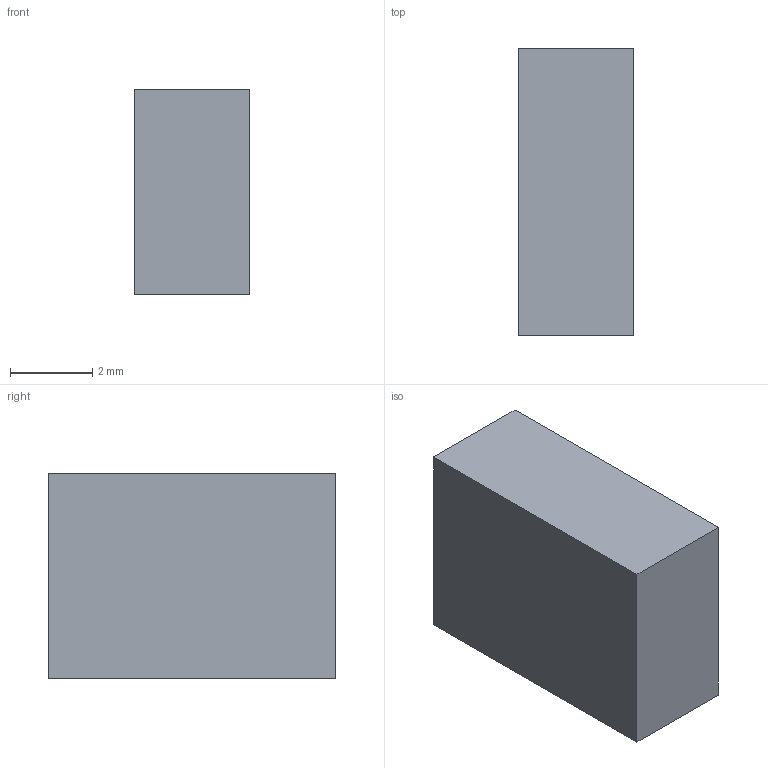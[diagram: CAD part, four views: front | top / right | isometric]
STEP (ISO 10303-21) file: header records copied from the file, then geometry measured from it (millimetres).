
FILE_DESCRIPTION(('Open CASCADE Model'),'2;1');
FILE_NAME('Open CASCADE Shape Model','2026-09-24T05:33:22',('Author'),( 'Open CASCADE'),'Open CASCADE STEP processor 7.8','Open CASCADE 7.8' ,'Unknown');
FILE_SCHEMA(('AUTOMOTIVE_DESIGN { 1 0 10303 214 1 1 1 1 }'));
Length unit declared in the file: millimetre
Products named in the file (1): Open CASCADE STEP translator 7.8 68
Bounding box: 2.8 x 7 x 5 mm (x, y, z)
Volume: 98 mm3; surface area: 137.2 mm2
Topology: 1 solids, 1 shells, 6 faces, 12 edges, 8 vertices
Faces by surface type: plane 6
Entity records: 322 total; most frequent: CARTESIAN_POINT 51, DIRECTION 50, LINE 36, VECTOR 36, ORIENTED_EDGE 24, PCURVE 24, DEFINITIONAL_REPRESENTATION 24, EDGE_CURVE 12
